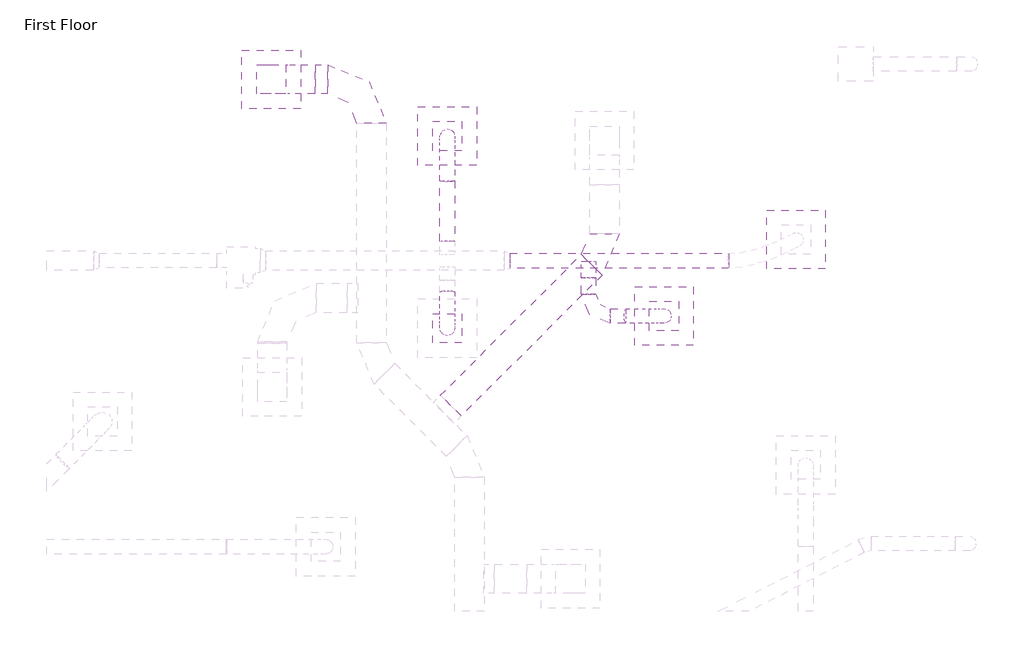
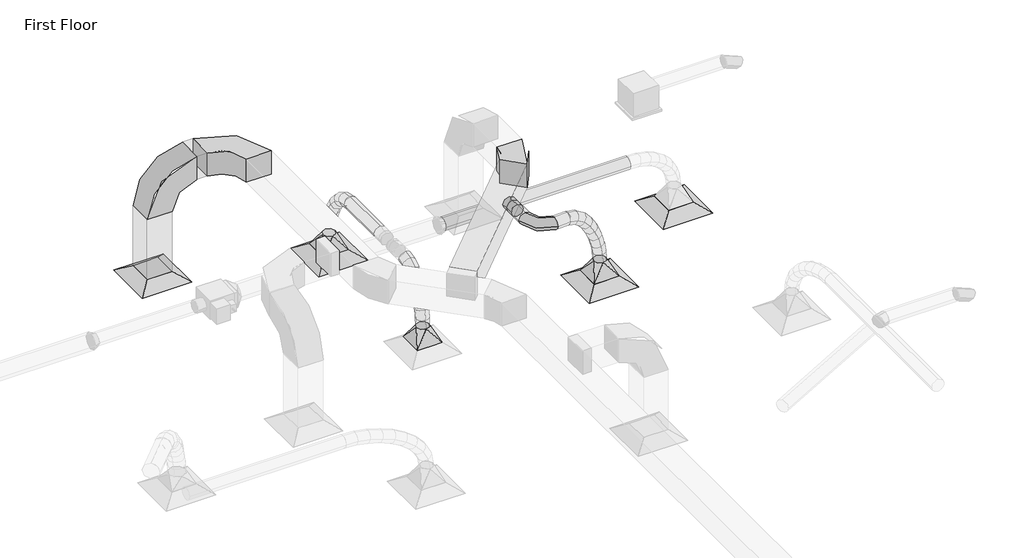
# One storey, part 32 of 61: 10 duct segments, 8 duct fittings, 4 air terminals.
"""IFC4 building model written with IfcOpenShell, lengths in millimetres."""

from ifc_helpers import new_model, si_unit, point, frame, frame_2d, origin, place, context, project, spatial, polyline, circle_curve, ellipse_curve, trimmed, segment, composite_curve, outline, extrude, transform, mapped, element, save
from ifc_brep_helpers import plane_surface, cylinder_surface, advanced_brep
from components import m_exhaust_grill_er_600_x_600_face_300_x_300_connection_ff221211, m_rectangular_elbow_radius_1_5_w_5bed5c13, m_rectangular_elbow_radius_1_5_w_86011e9f, m_rectangular_to_round_transition_angle_45_degree_8f201c83, m_round_elbow_1_5_d_2e586196, m_round_takeoff_standard_501f709b

model = new_model("IFC4")

# Units and contexts
model_context = context("Model", 3, world=origin())
ifc_project = project(units=[si_unit("LENGTHUNIT", "METRE", prefix="MILLI")], contexts=[model_context])

# Site, building, storey
site = spatial("IfcSite", under=ifc_project)
building = spatial("IfcBuilding", under=site)
storey = spatial("IfcBuildingStorey", under=building, Name="First Floor", Elevation=0.0)

# Air terminals
placement = place(None, origin())
m_exhaust_grill_er_600_x_600_face_300_x_300_connection_shape = m_exhaust_grill_er_600_x_600_face_300_x_300_connection_ff221211(model_context)
element("IfcAirTerminal", 1, ObjectType="M_Return Register : RR-600 x 600 Face 300 x 300 Connection", at=placement, inside=storey, context=model_context, shape_type="MappedRepresentation", body=[
    mapped(m_exhaust_grill_er_600_x_600_face_300_x_300_connection_shape, transform((-6532.1176508, 27555.9279557, 2680.0), x_axis=(1.0, 0.0, 0.0), y_axis=(0.0, 1.0, 0.0), z_axis=(0.0, 0.0, 1.0))),
])
element("IfcAirTerminal", 2, ObjectType="M_Supply Diffuser : SD-600 x 600 Face 300 x 300 Connection", at=placement, inside=storey, context=model_context, shape_type="MappedRepresentation", body=[
    mapped(m_exhaust_grill_er_600_x_600_face_300_x_300_connection_shape, transform((-1158.5597337, 25915.1292224, 2680.0), x_axis=(1.0, 0.0, 0.0), y_axis=(0.0, 1.0, 0.0), z_axis=(0.0, 0.0, 1.0))),
])
element("IfcAirTerminal", 3, ObjectType="M_Supply Diffuser : SD-600 x 600 Face 300 x 300 Connection", at=placement, inside=storey, context=model_context, shape_type="MappedRepresentation", body=[
    mapped(m_exhaust_grill_er_600_x_600_face_300_x_300_connection_shape, transform((-2510.3196662, 25131.9911597, 2680.0), x_axis=(1.0, 0.0, 0.0), y_axis=(0.0, 1.0, 0.0), z_axis=(0.0, 0.0, 1.0))),
])
element("IfcAirTerminal", 4, ObjectType="M_Supply Diffuser : SD-600 x 600 Face 300 x 300 Connection", at=placement, inside=storey, context=model_context, shape_type="MappedRepresentation", body=[
    mapped(m_exhaust_grill_er_600_x_600_face_300_x_300_connection_shape, transform((-4729.296973, 26974.3313895, 2680.0), x_axis=(1.0, 0.0, 0.0), y_axis=(0.0, 1.0, 0.0), z_axis=(0.0, 0.0, 1.0))),
])

# Duct fittings
m_rectangular_elbow_radius_1_5_w_shape = m_rectangular_elbow_radius_1_5_w_5bed5c13(model_context)
element("IfcDuctFitting", 5, ObjectType="M_Rectangular Elbow - Radius : 1.5 W", at=placement, inside=storey, context=model_context, shape_type="MappedRepresentation", body=[
    mapped(m_rectangular_elbow_radius_1_5_w_shape, transform((-3119.2454785, 25788.9568469, 4000.0), x_axis=(0.7071067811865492, 0.7071067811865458, 0.0), y_axis=(-0.7071067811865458, 0.7071067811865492, 0.0), z_axis=(0.0, 0.0, 1.0))),
])
m_rectangular_elbow_radius_1_5_w_2_shape = m_rectangular_elbow_radius_1_5_w_86011e9f(model_context)
element("IfcDuctFitting", 6, ObjectType="M_Rectangular Elbow - Radius : 1.5 W", at=placement, inside=storey, context=model_context, shape_type="MappedRepresentation", body=[
    mapped(m_rectangular_elbow_radius_1_5_w_2_shape, transform((-6532.1176508, 27555.9279557, 4000.0), x_axis=(0.0, 0.0, 1.0), y_axis=(1.0, 0.0, 0.0), z_axis=(0.0, 1.0, 0.0))),
])
element("IfcDuctFitting", 7, ObjectType="M_Rectangular Elbow - Radius : 1.5 W", at=placement, inside=storey, context=model_context, shape_type="MappedRepresentation", body=[
    mapped(m_rectangular_elbow_radius_1_5_w_2_shape, transform((-5504.0823103, 27555.9279557, 4000.0), x_axis=(0.0, 1.0, 0.0), y_axis=(-1.0, 0.0, 0.0), z_axis=(0.0, 0.0, 1.0))),
])
m_rectangular_to_round_transition_angle_45_degree_shape = m_rectangular_to_round_transition_angle_45_degree_8f201c83(model_context)
element("IfcDuctFitting", 8, ObjectType="M_Rectangular to Round Transition - Angle : 45 Degree", at=placement, inside=storey, context=model_context, shape_type="MappedRepresentation", body=[
    mapped(m_rectangular_to_round_transition_angle_45_degree_shape, transform((-4729.296973, 26974.3313895, 2781.6), x_axis=(0.0, 0.0, 1.0), y_axis=(1.0, 0.0, 0.0), z_axis=(0.0, 1.0, 0.0))),
])
element("IfcDuctFitting", 9, ObjectType="M_Rectangular to Round Transition - Angle : 45 Degree", at=placement, inside=storey, context=model_context, shape_type="MappedRepresentation", body=[
    mapped(m_rectangular_to_round_transition_angle_45_degree_shape, transform((-4729.296973, 25007.077628, 2781.6), x_axis=(0.0, 0.0, 1.0), y_axis=(1.0, 0.0, 0.0), z_axis=(0.0, 1.0, 0.0))),
])
element("IfcDuctFitting", 10, ObjectType="M_Rectangular to Round Transition - Angle : 45 Degree", at=placement, inside=storey, context=model_context, shape_type="MappedRepresentation", body=[
    mapped(m_rectangular_to_round_transition_angle_45_degree_shape, transform((-2510.3196662, 25131.9911597, 2781.6), x_axis=(0.0, 0.0, 1.0), y_axis=(1.0, 0.0, 0.0), z_axis=(0.0, 1.0, 0.0))),
])
m_round_elbow_1_5_d_shape = m_round_elbow_1_5_d_2e586196(model_context)
element("IfcDuctFitting", 11, ObjectType="M_Round Elbow : 1.5 D", at=placement, inside=storey, context=model_context, shape_type="MappedRepresentation", body=[
    mapped(m_round_elbow_1_5_d_shape, transform((-3284.1409075, 25131.9911597, 3619.1), x_axis=(0.0, -1.0, 0.0), y_axis=(1.0, 0.0, 0.0), z_axis=(0.0, 0.0, 1.0))),
])
m_round_takeoff_standard_shape = m_round_takeoff_standard_501f709b(model_context)
element("IfcDuctFitting", 12, ObjectType="M_Round Takeoff : Standard", at=placement, inside=storey, context=model_context, shape_type="MappedRepresentation", body=[
    mapped(m_round_takeoff_standard_shape, transform((-3284.1409075, 25624.0931749, 3619.1), x_axis=(0.0, -1.0, 0.0), y_axis=(-1.0, 0.0, 0.0), z_axis=(0.0, 0.0, -1.0))),
])

# Duct segments
element("IfcDuctSegment", 13, ObjectType="Flex - Round", at=placement, inside=storey, context=model_context, shape_type="AdvancedBrep", body=[
    advanced_brep(
    [(-4804.296973, 26519.0931749, 3619.1), (-4729.296973, 26504.0114322, 3545.6320407), (-4654.296973, 26519.0931749, 3619.1), (-4729.296973, 26534.1749175, 3692.5679593), (-4804.296973, 26628.1538527, 3596.7116678), (-4729.296973, 26599.8093834, 3525.9663244), (-4654.296973, 26628.1538527, 3596.7116678), (-4729.296973, 26656.498322, 3667.4570112), (-4804.296973, 26974.3313895, 2962.6660172), (-4729.296973, 27049.0054501, 2969.6506202), (-4654.296973, 26974.3313895, 2962.6660172), (-4729.296973, 26899.6573289, 2955.6814142), (-4804.296973, 26725.7936503, 3535.5411515), (-4729.296973, 26677.5397004, 3477.2689311), (-4654.296973, 26725.7936503, 3535.5411515), (-4729.296973, 26774.0476001, 3593.8133719), (-4804.296973, 26810.0597663, 3444.5801713), (-4729.296973, 26750.0684938, 3398.9777929), (-4654.296973, 26810.0597663, 3444.5801713), (-4729.296973, 26870.0510389, 3490.1825496), (-4804.296973, 26878.9993996, 3332.8204474), (-4729.296973, 26812.0750015, 3298.4575281), (-4654.296973, 26878.9993996, 3332.8204474), (-4729.296973, 26945.9237976, 3367.1833667), (-4804.296973, 26930.6597487, 3209.2537003), (-4729.296973, 26859.3652095, 3185.343752), (-4654.296973, 26930.6597487, 3209.2537003), (-4729.296973, 27001.9542879, 3233.1636486), (-4804.296973, 26963.0880124, 3082.8716501), (-4729.296973, 26888.9665607, 3069.9789737), (-4654.296973, 26963.0880124, 3082.8716501), (-4729.296973, 27037.2094641, 3095.7643265)],
    [
        (0, 1, circle_curve(frame((-4729.296973, 26519.0931749, 3619.1), z_axis=(0.0, -0.9795727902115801, 0.20108990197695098), x_axis=(-1.0, 0.0, 0.0)), 75.0)),
        (1, 2, circle_curve(frame((-4729.296973, 26519.0931749, 3619.1), z_axis=(0.0, -0.9795727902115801, 0.20108990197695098), x_axis=(-1.0, 0.0, 0.0)), 75.0)),
        (2, 3, circle_curve(frame((-4729.296973, 26519.0931749, 3619.1), z_axis=(0.0, -0.9795727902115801, 0.20108990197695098), x_axis=(-1.0, 0.0, 0.0)), 75.0)),
        (3, 0, circle_curve(frame((-4729.296973, 26519.0931749, 3619.1), z_axis=(0.0, -0.9795727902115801, 0.20108990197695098), x_axis=(-1.0, 0.0, 0.0)), 75.0)),
        (0, 4),
        (4, 5, ellipse_curve(frame((-4729.296973, 26628.1538527, 3596.7116678), z_axis=(0.0, -0.9282669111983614, 0.3719146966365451), x_axis=(0.0, -0.37191469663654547, -0.9282669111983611)), 76.2122861, 75.0)),
        (5, 1),
        (5, 6, ellipse_curve(frame((-4729.296973, 26628.1538527, 3596.7116678), z_axis=(0.0, -0.9282669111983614, 0.3719146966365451), x_axis=(0.0, -0.37191469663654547, -0.9282669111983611)), 76.2122861, 75.0)),
        (6, 2),
        (6, 7, ellipse_curve(frame((-4729.296973, 26628.1538527, 3596.7116678), z_axis=(0.0, -0.9282669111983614, 0.3719146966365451), x_axis=(0.0, -0.37191469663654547, -0.9282669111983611)), 76.2122861, 75.0)),
        (7, 3),
        (7, 4, ellipse_curve(frame((-4729.296973, 26628.1538527, 3596.7116678), z_axis=(0.0, -0.9282669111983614, 0.3719146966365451), x_axis=(0.0, -0.37191469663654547, -0.9282669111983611)), 76.2122861, 75.0)),
        (8, 9, circle_curve(frame((-4729.296973, 26974.3313895, 2962.6660172), z_axis=(0.0, 0.0931280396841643, -0.9956541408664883), x_axis=(-1.0, 0.0, 0.0)), 75.0)),
        (9, 10, circle_curve(frame((-4729.296973, 26974.3313895, 2962.6660172), z_axis=(0.0, 0.0931280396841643, -0.9956541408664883), x_axis=(-1.0, 0.0, 0.0)), 75.0)),
        (10, 11, circle_curve(frame((-4729.296973, 26974.3313895, 2962.6660172), z_axis=(0.0, 0.0931280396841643, -0.9956541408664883), x_axis=(-1.0, 0.0, 0.0)), 75.0)),
        (11, 8, circle_curve(frame((-4729.296973, 26974.3313895, 2962.6660172), z_axis=(0.0, 0.0931280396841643, -0.9956541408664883), x_axis=(-1.0, 0.0, 0.0)), 75.0)),
        (4, 12),
        (12, 13, ellipse_curve(frame((-4729.296973, 26725.7936503, 3535.5411515), z_axis=(0.0, -0.770208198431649, 0.6377925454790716), x_axis=(0.0, -0.6377925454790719, -0.7702081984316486)), 75.6577514, 75.0)),
        (13, 5),
        (13, 14, ellipse_curve(frame((-4729.296973, 26725.7936503, 3535.5411515), z_axis=(0.0, -0.770208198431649, 0.6377925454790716), x_axis=(0.0, -0.6377925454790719, -0.7702081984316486)), 75.6577514, 75.0)),
        (14, 6),
        (14, 15, ellipse_curve(frame((-4729.296973, 26725.7936503, 3535.5411515), z_axis=(0.0, -0.770208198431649, 0.6377925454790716), x_axis=(0.0, -0.6377925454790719, -0.7702081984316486)), 75.6577514, 75.0)),
        (15, 7),
        (15, 12, ellipse_curve(frame((-4729.296973, 26725.7936503, 3535.5411515), z_axis=(0.0, -0.770208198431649, 0.6377925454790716), x_axis=(0.0, -0.6377925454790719, -0.7702081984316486)), 75.6577514, 75.0)),
        (12, 16),
        (16, 17, ellipse_curve(frame((-4729.296973, 26810.0597663, 3444.5801713), z_axis=(0.0, -0.6051590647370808, 0.7961045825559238), x_axis=(0.0, -0.796104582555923, -0.6051590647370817)), 75.3560196, 75.0)),
        (17, 13),
        (17, 18, ellipse_curve(frame((-4729.296973, 26810.0597663, 3444.5801713), z_axis=(0.0, -0.6051590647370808, 0.7961045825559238), x_axis=(0.0, -0.796104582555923, -0.6051590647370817)), 75.3560196, 75.0)),
        (18, 14),
        (18, 19, ellipse_curve(frame((-4729.296973, 26810.0597663, 3444.5801713), z_axis=(0.0, -0.6051590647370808, 0.7961045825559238), x_axis=(0.0, -0.796104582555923, -0.6051590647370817)), 75.3560196, 75.0)),
        (19, 15),
        (19, 16, ellipse_curve(frame((-4729.296973, 26810.0597663, 3444.5801713), z_axis=(0.0, -0.6051590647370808, 0.7961045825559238), x_axis=(0.0, -0.796104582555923, -0.6051590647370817)), 75.3560196, 75.0)),
        (16, 20),
        (20, 21, ellipse_curve(frame((-4729.296973, 26878.9993996, 3332.8204474), z_axis=(0.0, -0.4567661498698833, 0.8895868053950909), x_axis=(0.0, -0.8895868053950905, -0.45676614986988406)), 75.2308798, 75.0)),
        (21, 17),
        (21, 22, ellipse_curve(frame((-4729.296973, 26878.9993996, 3332.8204474), z_axis=(0.0, -0.4567661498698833, 0.8895868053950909), x_axis=(0.0, -0.8895868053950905, -0.45676614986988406)), 75.2308798, 75.0)),
        (22, 18),
        (22, 23, ellipse_curve(frame((-4729.296973, 26878.9993996, 3332.8204474), z_axis=(0.0, -0.4567661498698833, 0.8895868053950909), x_axis=(0.0, -0.8895868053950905, -0.45676614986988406)), 75.2308798, 75.0)),
        (23, 19),
        (23, 20, ellipse_curve(frame((-4729.296973, 26878.9993996, 3332.8204474), z_axis=(0.0, -0.4567661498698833, 0.8895868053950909), x_axis=(0.0, -0.8895868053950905, -0.45676614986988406)), 75.2308798, 75.0)),
        (20, 24),
        (24, 25, ellipse_curve(frame((-4729.296973, 26930.6597487, 3209.2537003), z_axis=(0.0, -0.31796389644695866, 0.9481028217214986), x_axis=(0.0, -0.9481028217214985, -0.3179638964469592)), 75.1970541, 75.0)),
        (25, 21),
        (25, 26, ellipse_curve(frame((-4729.296973, 26930.6597487, 3209.2537003), z_axis=(0.0, -0.31796389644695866, 0.9481028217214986), x_axis=(0.0, -0.9481028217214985, -0.3179638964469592)), 75.1970541, 75.0)),
        (26, 22),
        (26, 27, ellipse_curve(frame((-4729.296973, 26930.6597487, 3209.2537003), z_axis=(0.0, -0.31796389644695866, 0.9481028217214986), x_axis=(0.0, -0.9481028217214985, -0.3179638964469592)), 75.1970541, 75.0)),
        (27, 23),
        (27, 24, ellipse_curve(frame((-4729.296973, 26930.6597487, 3209.2537003), z_axis=(0.0, -0.31796389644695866, 0.9481028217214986), x_axis=(0.0, -0.9481028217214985, -0.3179638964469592)), 75.1970541, 75.0)),
        (24, 28),
        (28, 29, ellipse_curve(frame((-4729.296973, 26963.0880124, 3082.8716501), z_axis=(0.0, -0.17136683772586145, 0.9852072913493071), x_axis=(0.0, -0.9852072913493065, -0.1713668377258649)), 75.2343719, 75.0)),
        (29, 25),
        (29, 30, ellipse_curve(frame((-4729.296973, 26963.0880124, 3082.8716501), z_axis=(0.0, -0.17136683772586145, 0.9852072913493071), x_axis=(0.0, -0.9852072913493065, -0.1713668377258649)), 75.2343719, 75.0)),
        (30, 26),
        (30, 31, ellipse_curve(frame((-4729.296973, 26963.0880124, 3082.8716501), z_axis=(0.0, -0.17136683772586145, 0.9852072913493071), x_axis=(0.0, -0.9852072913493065, -0.1713668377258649)), 75.2343719, 75.0)),
        (31, 27),
        (31, 28, ellipse_curve(frame((-4729.296973, 26963.0880124, 3082.8716501), z_axis=(0.0, -0.17136683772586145, 0.9852072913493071), x_axis=(0.0, -0.9852072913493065, -0.1713668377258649)), 75.2343719, 75.0)),
        (28, 8),
        (11, 29),
        (10, 30),
        (9, 31),
    ],
    [
        plane_surface(frame((-4729.296973, 26534.1749175, 3692.5679593), z_axis=(0.0, -0.9795727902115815, 0.20108990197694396), x_axis=(1.0, 0.0, 0.0))),
        cylinder_surface(frame((-4729.296973, 26519.0931749, 3619.1), z_axis=(0.0, -0.9795727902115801, 0.20108990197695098), x_axis=(-1.0, 0.0, 0.0)), 75.0),
        plane_surface(frame((-4729.296973, 27049.0054501, 2969.6506202), z_axis=(0.0, 0.09312803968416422, -0.9956541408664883), x_axis=(1.0, 0.0, 0.0))),
        cylinder_surface(frame((-4729.296973, 26628.1538527, 3596.7116678), z_axis=(0.0, -0.8474297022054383, 0.5309076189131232), x_axis=(-1.0, 0.0, 0.0)), 75.0),
        cylinder_surface(frame((-4729.296973, 26725.7936503, 3535.5411515), z_axis=(0.0, -0.679594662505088, 0.7335878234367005), x_axis=(-1.0, 0.0, 0.0)), 75.0),
        cylinder_surface(frame((-4729.296973, 26810.0597663, 3444.5801713), z_axis=(0.0, -0.5250053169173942, 0.8510989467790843), x_axis=(-1.0, 0.0, 0.0)), 75.0),
        cylinder_surface(frame((-4729.296973, 26878.9993996, 3332.8204474), z_axis=(0.0, -0.3857233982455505, 0.9226144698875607), x_axis=(-1.0, 0.0, 0.0)), 75.0),
        cylinder_surface(frame((-4729.296973, 26930.6597487, 3209.2537003), z_axis=(0.0, -0.2485379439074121, 0.9686221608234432), x_axis=(-1.0, 0.0, 0.0)), 75.0),
        cylinder_surface(frame((-4729.296973, 26963.0880124, 3082.8716501), z_axis=(0.0, -0.0931280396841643, 0.9956541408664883), x_axis=(-1.0, 0.0, 0.0)), 75.0),
    ],
    [
        (0, [[1, 2, 3, 4]]),
        (1, [[-1, 5, 6, 7]]),
        (1, [[-2, -7, 8, 9]]),
        (1, [[-3, -9, 10, 11]]),
        (1, [[-4, -11, 12, -5]]),
        (2, [[13, 14, 15, 16]]),
        (3, [[-6, 17, 18, 19]]),
        (3, [[-8, -19, 20, 21]]),
        (3, [[-10, -21, 22, 23]]),
        (3, [[-12, -23, 24, -17]]),
        (4, [[-18, 25, 26, 27]]),
        (4, [[-20, -27, 28, 29]]),
        (4, [[-22, -29, 30, 31]]),
        (4, [[-24, -31, 32, -25]]),
        (5, [[-26, 33, 34, 35]]),
        (5, [[-28, -35, 36, 37]]),
        (5, [[-30, -37, 38, 39]]),
        (5, [[-32, -39, 40, -33]]),
        (6, [[-34, 41, 42, 43]]),
        (6, [[-36, -43, 44, 45]]),
        (6, [[-38, -45, 46, 47]]),
        (6, [[-40, -47, 48, -41]]),
        (7, [[-42, 49, 50, 51]]),
        (7, [[-44, -51, 52, 53]]),
        (7, [[-46, -53, 54, 55]]),
        (7, [[-48, -55, 56, -49]]),
        (8, [[-50, 57, -16, 58]]),
        (8, [[-52, -58, -15, 59]]),
        (8, [[-54, -59, -14, 60]]),
        (8, [[-56, -60, -13, -57]]),
    ],
),
])
element("IfcDuctSegment", 14, ObjectType="Flex - Round", at=placement, inside=storey, context=model_context, shape_type="AdvancedBrep", body=[
    advanced_brep(
    [(-4654.296973, 25379.0931749, 3619.1), (-4729.296973, 25394.0033206, 3545.5970235), (-4804.296973, 25379.0931749, 3619.1), (-4729.296973, 25364.1830291, 3692.6029765), (-4654.296973, 25290.8981649, 3601.2095619), (-4729.296973, 25319.7607214, 3530.5368446), (-4804.296973, 25290.8981649, 3601.2095619), (-4729.296973, 25262.0356084, 3671.8822791), (-4654.296973, 25007.077628, 2962.6660172), (-4729.296973, 24932.1968762, 2966.8936648), (-4804.296973, 25007.077628, 2962.6660172), (-4729.296973, 25081.9583798, 2958.4383695), (-4654.296973, 25214.8613045, 3551.9003373), (-4729.296973, 25264.6533397, 3494.8001999), (-4804.296973, 25214.8613045, 3551.9003373), (-4729.296973, 25165.0692693, 3609.0004746), (-4654.296973, 25150.8596711, 3477.7154609), (-4729.296973, 25212.5389826, 3434.3939738), (-4804.296973, 25150.8596711, 3477.7154609), (-4729.296973, 25089.1803597, 3521.036948), (-4654.296973, 25098.7703426, 3385.1980674), (-4729.296973, 25166.7795153, 3353.1192338), (-4804.296973, 25098.7703426, 3385.1980674), (-4729.296973, 25030.7611698, 3417.2769011), (-4654.296973, 25058.4703964, 3280.8912917), (-4729.296973, 25129.9597625, 3257.8201064), (-4804.296973, 25058.4703964, 3280.8912917), (-4729.296973, 24986.9810302, 3303.9624769), (-4654.296973, 25029.8369101, 3171.3382682), (-4729.296973, 25103.339648, 3155.970335), (-4804.296973, 25029.8369101, 3171.3382682), (-4729.296973, 24956.3341723, 3186.7062014), (-4654.296973, 25012.7469615, 3063.0821318), (-4729.296973, 25087.4157834, 3055.1007482), (-4804.296973, 25012.7469615, 3063.0821318), (-4729.296973, 24938.0781396, 3071.0635154)],
    [
        (0, 1, circle_curve(frame((-4729.296973, 25379.0931749, 3619.1), z_axis=(0.0, 0.9800396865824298, 0.19880194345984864), x_axis=(1.0, 0.0, 0.0)), 75.0)),
        (1, 2, circle_curve(frame((-4729.296973, 25379.0931749, 3619.1), z_axis=(0.0, 0.9800396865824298, 0.19880194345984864), x_axis=(1.0, 0.0, 0.0)), 75.0)),
        (2, 3, circle_curve(frame((-4729.296973, 25379.0931749, 3619.1), z_axis=(0.0, 0.9800396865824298, 0.19880194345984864), x_axis=(1.0, 0.0, 0.0)), 75.0)),
        (3, 0, circle_curve(frame((-4729.296973, 25379.0931749, 3619.1), z_axis=(0.0, 0.9800396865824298, 0.19880194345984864), x_axis=(1.0, 0.0, 0.0)), 75.0)),
        (0, 4),
        (4, 5, ellipse_curve(frame((-4729.296973, 25290.8981649, 3601.2095619), z_axis=(0.0, 0.9257717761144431, 0.3780828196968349), x_axis=(0.0, 0.37808281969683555, -0.925771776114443)), 76.3392437, 75.0)),
        (5, 1),
        (5, 6, ellipse_curve(frame((-4729.296973, 25290.8981649, 3601.2095619), z_axis=(0.0, 0.9257717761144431, 0.3780828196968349), x_axis=(0.0, 0.37808281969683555, -0.925771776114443)), 76.3392437, 75.0)),
        (6, 2),
        (6, 7, ellipse_curve(frame((-4729.296973, 25290.8981649, 3601.2095619), z_axis=(0.0, 0.9257717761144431, 0.3780828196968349), x_axis=(0.0, 0.37808281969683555, -0.925771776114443)), 76.3392437, 75.0)),
        (7, 3),
        (7, 4, ellipse_curve(frame((-4729.296973, 25290.8981649, 3601.2095619), z_axis=(0.0, 0.9257717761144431, 0.3780828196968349), x_axis=(0.0, 0.37808281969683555, -0.925771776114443)), 76.3392437, 75.0)),
        (8, 9, circle_curve(frame((-4729.296973, 25007.077628, 2962.6660172), z_axis=(0.0, -0.05636863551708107, -0.9984100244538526), x_axis=(1.0, 0.0, 0.0)), 75.0)),
        (9, 10, circle_curve(frame((-4729.296973, 25007.077628, 2962.6660172), z_axis=(0.0, -0.05636863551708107, -0.9984100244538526), x_axis=(1.0, 0.0, 0.0)), 75.0)),
        (10, 11, circle_curve(frame((-4729.296973, 25007.077628, 2962.6660172), z_axis=(0.0, -0.05636863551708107, -0.9984100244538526), x_axis=(1.0, 0.0, 0.0)), 75.0)),
        (11, 8, circle_curve(frame((-4729.296973, 25007.077628, 2962.6660172), z_axis=(0.0, -0.05636863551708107, -0.9984100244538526), x_axis=(1.0, 0.0, 0.0)), 75.0)),
        (4, 12),
        (12, 13, ellipse_curve(frame((-4729.296973, 25214.8613045, 3551.9003373), z_axis=(0.0, 0.7536914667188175, 0.6572284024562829), x_axis=(0.0, 0.6572284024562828, -0.7536914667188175)), 75.760626, 75.0)),
        (13, 5),
        (13, 14, ellipse_curve(frame((-4729.296973, 25214.8613045, 3551.9003373), z_axis=(0.0, 0.7536914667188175, 0.6572284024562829), x_axis=(0.0, 0.6572284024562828, -0.7536914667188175)), 75.760626, 75.0)),
        (14, 6),
        (14, 15, ellipse_curve(frame((-4729.296973, 25214.8613045, 3551.9003373), z_axis=(0.0, 0.7536914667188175, 0.6572284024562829), x_axis=(0.0, 0.6572284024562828, -0.7536914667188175)), 75.760626, 75.0)),
        (15, 7),
        (15, 12, ellipse_curve(frame((-4729.296973, 25214.8613045, 3551.9003373), z_axis=(0.0, 0.7536914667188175, 0.6572284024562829), x_axis=(0.0, 0.6572284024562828, -0.7536914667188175)), 75.760626, 75.0)),
        (12, 16),
        (16, 17, ellipse_curve(frame((-4729.296973, 25150.8596711, 3477.7154609), z_axis=(0.0, 0.574761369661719, 0.8183210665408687), x_axis=(0.0, 0.8183210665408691, -0.5747613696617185)), 75.3729972, 75.0)),
        (17, 13),
        (17, 18, ellipse_curve(frame((-4729.296973, 25150.8596711, 3477.7154609), z_axis=(0.0, 0.574761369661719, 0.8183210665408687), x_axis=(0.0, 0.8183210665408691, -0.5747613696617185)), 75.3729972, 75.0)),
        (18, 14),
        (18, 19, ellipse_curve(frame((-4729.296973, 25150.8596711, 3477.7154609), z_axis=(0.0, 0.574761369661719, 0.8183210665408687), x_axis=(0.0, 0.8183210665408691, -0.5747613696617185)), 75.3729972, 75.0)),
        (19, 15),
        (19, 16, ellipse_curve(frame((-4729.296973, 25150.8596711, 3477.7154609), z_axis=(0.0, 0.574761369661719, 0.8183210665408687), x_axis=(0.0, 0.8183210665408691, -0.5747613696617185)), 75.3729972, 75.0)),
        (16, 20),
        (20, 21, ellipse_curve(frame((-4729.296973, 25098.7703426, 3385.1980674), z_axis=(0.0, 0.4266081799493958, 0.9044365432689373), x_axis=(0.0, 0.9044365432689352, -0.4266081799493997)), 75.195074, 75.0)),
        (21, 17),
        (21, 22, ellipse_curve(frame((-4729.296973, 25098.7703426, 3385.1980674), z_axis=(0.0, 0.4266081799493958, 0.9044365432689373), x_axis=(0.0, 0.9044365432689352, -0.4266081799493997)), 75.195074, 75.0)),
        (22, 18),
        (22, 23, ellipse_curve(frame((-4729.296973, 25098.7703426, 3385.1980674), z_axis=(0.0, 0.4266081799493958, 0.9044365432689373), x_axis=(0.0, 0.9044365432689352, -0.4266081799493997)), 75.195074, 75.0)),
        (23, 19),
        (23, 20, ellipse_curve(frame((-4729.296973, 25098.7703426, 3385.1980674), z_axis=(0.0, 0.4266081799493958, 0.9044365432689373), x_axis=(0.0, 0.9044365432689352, -0.4266081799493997)), 75.195074, 75.0)),
        (20, 24),
        (24, 25, ellipse_curve(frame((-4729.296973, 25058.4703964, 3280.8912917), z_axis=(0.0, 0.30712454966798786, 0.9516693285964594), x_axis=(0.0, 0.9516693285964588, -0.30712454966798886)), 75.1199644, 75.0)),
        (25, 21),
        (25, 26, ellipse_curve(frame((-4729.296973, 25058.4703964, 3280.8912917), z_axis=(0.0, 0.30712454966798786, 0.9516693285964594), x_axis=(0.0, 0.9516693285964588, -0.30712454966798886)), 75.1199644, 75.0)),
        (26, 22),
        (26, 27, ellipse_curve(frame((-4729.296973, 25058.4703964, 3280.8912917), z_axis=(0.0, 0.30712454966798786, 0.9516693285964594), x_axis=(0.0, 0.9516693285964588, -0.30712454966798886)), 75.1199644, 75.0)),
        (27, 23),
        (27, 24, ellipse_curve(frame((-4729.296973, 25058.4703964, 3280.8912917), z_axis=(0.0, 0.30712454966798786, 0.9516693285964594), x_axis=(0.0, 0.9516693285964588, -0.30712454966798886)), 75.1199644, 75.0)),
        (24, 28),
        (28, 29, ellipse_curve(frame((-4729.296973, 25029.8369101, 3171.3382682), z_axis=(0.0, 0.20465441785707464, 0.9788342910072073), x_axis=(0.0, 0.9788342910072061, -0.20465441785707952)), 75.0921157, 75.0)),
        (29, 25),
        (29, 30, ellipse_curve(frame((-4729.296973, 25029.8369101, 3171.3382682), z_axis=(0.0, 0.20465441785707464, 0.9788342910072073), x_axis=(0.0, 0.9788342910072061, -0.20465441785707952)), 75.0921157, 75.0)),
        (30, 26),
        (30, 31, ellipse_curve(frame((-4729.296973, 25029.8369101, 3171.3382682), z_axis=(0.0, 0.20465441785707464, 0.9788342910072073), x_axis=(0.0, 0.9788342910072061, -0.20465441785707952)), 75.0921157, 75.0)),
        (31, 27),
        (31, 28, ellipse_curve(frame((-4729.296973, 25029.8369101, 3171.3382682), z_axis=(0.0, 0.20465441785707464, 0.9788342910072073), x_axis=(0.0, 0.9788342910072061, -0.20465441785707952)), 75.0921157, 75.0)),
        (28, 32),
        (32, 33, ellipse_curve(frame((-4729.296973, 25012.7469615, 3063.0821318), z_axis=(0.0, 0.10628498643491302, 0.9943357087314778), x_axis=(0.0, 0.994335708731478, -0.10628498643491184)), 75.0941772, 75.0)),
        (33, 29),
        (33, 34, ellipse_curve(frame((-4729.296973, 25012.7469615, 3063.0821318), z_axis=(0.0, 0.10628498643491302, 0.9943357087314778), x_axis=(0.0, 0.994335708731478, -0.10628498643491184)), 75.0941772, 75.0)),
        (34, 30),
        (34, 35, ellipse_curve(frame((-4729.296973, 25012.7469615, 3063.0821318), z_axis=(0.0, 0.10628498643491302, 0.9943357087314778), x_axis=(0.0, 0.994335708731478, -0.10628498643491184)), 75.0941772, 75.0)),
        (35, 31),
        (35, 32, ellipse_curve(frame((-4729.296973, 25012.7469615, 3063.0821318), z_axis=(0.0, 0.10628498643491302, 0.9943357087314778), x_axis=(0.0, 0.994335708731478, -0.10628498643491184)), 75.0941772, 75.0)),
        (32, 8),
        (11, 33),
        (10, 34),
        (9, 35),
    ],
    [
        plane_surface(frame((-4729.296973, 25394.0033206, 3545.5970235), z_axis=(0.0, 0.9800396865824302, 0.19880194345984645), x_axis=(1.0, 0.0, 0.0))),
        cylinder_surface(frame((-4729.296973, 25379.0931749, 3619.1), z_axis=(0.0, 0.9800396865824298, 0.19880194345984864), x_axis=(1.0, 0.0, 0.0)), 75.0),
        plane_surface(frame((-4729.296973, 25081.9583798, 2958.4383695), z_axis=(0.0, -0.05636863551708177, -0.9984100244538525), x_axis=(1.0, 0.0, 0.0))),
        cylinder_surface(frame((-4729.296973, 25290.8981649, 3601.2095619), z_axis=(0.0, 0.8390216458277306, 0.5440980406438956), x_axis=(1.0, 0.0, 0.0)), 75.0),
        cylinder_surface(frame((-4729.296973, 25214.8613045, 3551.9003373), z_axis=(0.0, 0.6532273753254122, 0.7571618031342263), x_axis=(1.0, 0.0, 0.0)), 75.0),
        cylinder_surface(frame((-4729.296973, 25150.8596711, 3477.7154609), z_axis=(0.0, 0.4906067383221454, 0.8713811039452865), x_axis=(1.0, 0.0, 0.0)), 75.0),
        cylinder_surface(frame((-4729.296973, 25098.7703426, 3385.1980674), z_axis=(0.0, 0.3603961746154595, 0.9327993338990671), x_axis=(1.0, 0.0, 0.0)), 75.0),
        cylinder_surface(frame((-4729.296973, 25058.4703964, 3280.8912917), z_axis=(0.0, 0.25287198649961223, 0.9674997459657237), x_axis=(1.0, 0.0, 0.0)), 75.0),
        cylinder_surface(frame((-4729.296973, 25029.8369101, 3171.3382682), z_axis=(0.0, 0.15593474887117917, 0.9877673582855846), x_axis=(1.0, 0.0, 0.0)), 75.0),
        cylinder_surface(frame((-4729.296973, 25012.7469615, 3063.0821318), z_axis=(0.0, 0.05636863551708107, 0.9984100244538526), x_axis=(1.0, 0.0, 0.0)), 75.0),
    ],
    [
        (0, [[1, 2, 3, 4]]),
        (1, [[-1, 5, 6, 7]]),
        (1, [[-2, -7, 8, 9]]),
        (1, [[-3, -9, 10, 11]]),
        (1, [[-4, -11, 12, -5]]),
        (2, [[13, 14, 15, 16]]),
        (3, [[-6, 17, 18, 19]]),
        (3, [[-8, -19, 20, 21]]),
        (3, [[-10, -21, 22, 23]]),
        (3, [[-12, -23, 24, -17]]),
        (4, [[-18, 25, 26, 27]]),
        (4, [[-20, -27, 28, 29]]),
        (4, [[-22, -29, 30, 31]]),
        (4, [[-24, -31, 32, -25]]),
        (5, [[-26, 33, 34, 35]]),
        (5, [[-28, -35, 36, 37]]),
        (5, [[-30, -37, 38, 39]]),
        (5, [[-32, -39, 40, -33]]),
        (6, [[-34, 41, 42, 43]]),
        (6, [[-36, -43, 44, 45]]),
        (6, [[-38, -45, 46, 47]]),
        (6, [[-40, -47, 48, -41]]),
        (7, [[-42, 49, 50, 51]]),
        (7, [[-44, -51, 52, 53]]),
        (7, [[-46, -53, 54, 55]]),
        (7, [[-48, -55, 56, -49]]),
        (8, [[-50, 57, 58, 59]]),
        (8, [[-52, -59, 60, 61]]),
        (8, [[-54, -61, 62, 63]]),
        (8, [[-56, -63, 64, -57]]),
        (9, [[-58, 65, -16, 66]]),
        (9, [[-60, -66, -15, 67]]),
        (9, [[-62, -67, -14, 68]]),
        (9, [[-64, -68, -13, -65]]),
    ],
),
])
element("IfcDuctSegment", 15, ObjectType="Flex - Round", at=placement, inside=storey, context=model_context, shape_type="AdvancedBrep", body=[
    advanced_brep(
    [(-2904.1409075, 25206.9911597, 3619.1), (-2918.6169469, 25131.9911597, 3545.5102977), (-2904.1409075, 25056.9911597, 3619.1), (-2889.6648682, 25131.9911597, 3692.6897023), (-2813.9575029, 25206.9911597, 3601.3597663), (-2841.8411429, 25131.9911597, 3530.4075112), (-2813.9575029, 25056.9911597, 3601.3597663), (-2786.0738629, 25131.9911597, 3672.3120214), (-2510.3196662, 25206.9911597, 2962.6660172), (-2435.4710224, 25131.9911597, 2967.4284243), (-2510.3196662, 25056.9911597, 2962.6660172), (-2585.16831, 25131.9911597, 2957.9036101), (-2734.9569372, 25206.9911597, 3552.415324), (-2783.2594907, 25131.9911597, 3494.1135142), (-2734.9569372, 25056.9911597, 3552.415324), (-2686.6543837, 25131.9911597, 3610.7171338), (-2667.3986123, 25206.9911597, 3478.681061), (-2727.6933481, 25131.9911597, 3433.4677155), (-2667.3986123, 25056.9911597, 3478.681061), (-2607.1038764, 25131.9911597, 3523.8944065), (-2611.5419301, 25206.9911597, 3386.5713654), (-2678.5152205, 25131.9911597, 3352.3711987), (-2611.5419301, 25056.9911597, 3386.5713654), (-2544.5686396, 25131.9911597, 3420.771532), (-2567.6462925, 25206.9911597, 3282.5006252), (-2638.4702418, 25131.9911597, 3257.4298606), (-2567.6462925, 25056.9911597, 3282.5006252), (-2496.8223431, 25131.9911597, 3307.5713897), (-2535.9711013, 25206.9911597, 3172.8832284), (-2609.1339337, 25131.9911597, 3155.906567), (-2535.9711013, 25056.9911597, 3172.8832284), (-2462.808269, 25131.9911597, 3189.8598897), (-2516.7757586, 25206.9911597, 3064.133563), (-2591.3594149, 25131.9911597, 3055.2064652), (-2516.7757586, 25056.9911597, 3064.133563), (-2442.1921023, 25131.9911597, 3073.0606609)],
    [
        (0, 1, circle_curve(frame((-2904.1409075, 25131.9911597, 3619.1), z_axis=(-0.9811960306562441, 0.0, 0.19301385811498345), x_axis=(0.0, 1.0, 0.0)), 75.0)),
        (1, 2, circle_curve(frame((-2904.1409075, 25131.9911597, 3619.1), z_axis=(-0.9811960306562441, 0.0, 0.19301385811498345), x_axis=(0.0, 1.0, 0.0)), 75.0)),
        (2, 3, circle_curve(frame((-2904.1409075, 25131.9911597, 3619.1), z_axis=(-0.9811960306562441, 0.0, 0.19301385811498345), x_axis=(0.0, 1.0, 0.0)), 75.0)),
        (3, 0, circle_curve(frame((-2904.1409075, 25131.9911597, 3619.1), z_axis=(-0.9811960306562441, 0.0, 0.19301385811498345), x_axis=(0.0, 1.0, 0.0)), 75.0)),
        (0, 4),
        (4, 5, ellipse_curve(frame((-2813.9575029, 25131.9911597, 3601.3597663), z_axis=(-0.9307088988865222, 0.0, 0.36576077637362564), x_axis=(-0.3657607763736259, 0.0, -0.930708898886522)), 76.234637, 75.0)),
        (5, 1),
        (5, 6, ellipse_curve(frame((-2813.9575029, 25131.9911597, 3601.3597663), z_axis=(-0.9307088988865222, 0.0, 0.36576077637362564), x_axis=(-0.3657607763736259, 0.0, -0.930708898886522)), 76.234637, 75.0)),
        (6, 2),
        (6, 7, ellipse_curve(frame((-2813.9575029, 25131.9911597, 3601.3597663), z_axis=(-0.9307088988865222, 0.0, 0.36576077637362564), x_axis=(-0.3657607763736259, 0.0, -0.930708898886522)), 76.234637, 75.0)),
        (7, 3),
        (7, 4, ellipse_curve(frame((-2813.9575029, 25131.9911597, 3601.3597663), z_axis=(-0.9307088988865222, 0.0, 0.36576077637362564), x_axis=(-0.3657607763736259, 0.0, -0.930708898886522)), 76.234637, 75.0)),
        (8, 9, circle_curve(frame((-2510.3196662, 25131.9911597, 2962.6660172), z_axis=(0.06349876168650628, 0.0, -0.9979819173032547), x_axis=(0.0, 1.0, 0.0)), 75.0)),
        (9, 10, circle_curve(frame((-2510.3196662, 25131.9911597, 2962.6660172), z_axis=(0.06349876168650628, 0.0, -0.9979819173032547), x_axis=(0.0, 1.0, 0.0)), 75.0)),
        (10, 11, circle_curve(frame((-2510.3196662, 25131.9911597, 2962.6660172), z_axis=(0.06349876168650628, 0.0, -0.9979819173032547), x_axis=(0.0, 1.0, 0.0)), 75.0)),
        (11, 8, circle_curve(frame((-2510.3196662, 25131.9911597, 2962.6660172), z_axis=(0.06349876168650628, 0.0, -0.9979819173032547), x_axis=(0.0, 1.0, 0.0)), 75.0)),
        (4, 12),
        (12, 13, ellipse_curve(frame((-2734.9569372, 25131.9911597, 3552.415324), z_axis=(-0.7700518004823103, 0.0, 0.6379813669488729), x_axis=(-0.6379813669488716, 0.0, -0.7700518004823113)), 75.7115427, 75.0)),
        (13, 5),
        (13, 14, ellipse_curve(frame((-2734.9569372, 25131.9911597, 3552.415324), z_axis=(-0.7700518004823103, 0.0, 0.6379813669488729), x_axis=(-0.6379813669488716, 0.0, -0.7700518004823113)), 75.7115427, 75.0)),
        (14, 6),
        (14, 15, ellipse_curve(frame((-2734.9569372, 25131.9911597, 3552.415324), z_axis=(-0.7700518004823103, 0.0, 0.6379813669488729), x_axis=(-0.6379813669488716, 0.0, -0.7700518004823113)), 75.7115427, 75.0)),
        (15, 7),
        (15, 12, ellipse_curve(frame((-2734.9569372, 25131.9911597, 3552.415324), z_axis=(-0.7700518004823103, 0.0, 0.6379813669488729), x_axis=(-0.6379813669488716, 0.0, -0.7700518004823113)), 75.7115427, 75.0)),
        (12, 16),
        (16, 17, ellipse_curve(frame((-2667.3986123, 25131.9911597, 3478.681061), z_axis=(-0.599934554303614, 0.0, 0.8000490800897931), x_axis=(-0.800049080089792, 0.0, -0.5999345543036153)), 75.3637962, 75.0)),
        (17, 13),
        (17, 18, ellipse_curve(frame((-2667.3986123, 25131.9911597, 3478.681061), z_axis=(-0.599934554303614, 0.0, 0.8000490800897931), x_axis=(-0.800049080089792, 0.0, -0.5999345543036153)), 75.3637962, 75.0)),
        (18, 14),
        (18, 19, ellipse_curve(frame((-2667.3986123, 25131.9911597, 3478.681061), z_axis=(-0.599934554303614, 0.0, 0.8000490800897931), x_axis=(-0.800049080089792, 0.0, -0.5999345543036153)), 75.3637962, 75.0)),
        (19, 15),
        (19, 16, ellipse_curve(frame((-2667.3986123, 25131.9911597, 3478.681061), z_axis=(-0.599934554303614, 0.0, 0.8000490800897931), x_axis=(-0.800049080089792, 0.0, -0.5999345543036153)), 75.3637962, 75.0)),
        (16, 20),
        (20, 21, ellipse_curve(frame((-2611.5419301, 25131.9911597, 3386.5713654), z_axis=(-0.4547881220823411, 0.0, 0.8905996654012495), x_axis=(-0.8905996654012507, 0.0, -0.45478812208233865)), 75.2002196, 75.0)),
        (21, 17),
        (21, 22, ellipse_curve(frame((-2611.5419301, 25131.9911597, 3386.5713654), z_axis=(-0.4547881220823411, 0.0, 0.8905996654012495), x_axis=(-0.8905996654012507, 0.0, -0.45478812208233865)), 75.2002196, 75.0)),
        (22, 18),
        (22, 23, ellipse_curve(frame((-2611.5419301, 25131.9911597, 3386.5713654), z_axis=(-0.4547881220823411, 0.0, 0.8905996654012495), x_axis=(-0.8905996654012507, 0.0, -0.45478812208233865)), 75.2002196, 75.0)),
        (23, 19),
        (23, 20, ellipse_curve(frame((-2611.5419301, 25131.9911597, 3386.5713654), z_axis=(-0.4547881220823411, 0.0, 0.8905996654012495), x_axis=(-0.8905996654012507, 0.0, -0.45478812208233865)), 75.2002196, 75.0)),
        (20, 24),
        (24, 25, ellipse_curve(frame((-2567.6462925, 25131.9911597, 3282.5006252), z_axis=(-0.33369673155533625, 0.0, 0.9426804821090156), x_axis=(-0.9426804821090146, 0.0, -0.3336967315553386)), 75.1303869, 75.0)),
        (25, 21),
        (25, 26, ellipse_curve(frame((-2567.6462925, 25131.9911597, 3282.5006252), z_axis=(-0.33369673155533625, 0.0, 0.9426804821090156), x_axis=(-0.9426804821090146, 0.0, -0.3336967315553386)), 75.1303869, 75.0)),
        (26, 22),
        (26, 27, ellipse_curve(frame((-2567.6462925, 25131.9911597, 3282.5006252), z_axis=(-0.33369673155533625, 0.0, 0.9426804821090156), x_axis=(-0.9426804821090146, 0.0, -0.3336967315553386)), 75.1303869, 75.0)),
        (27, 23),
        (27, 24, ellipse_curve(frame((-2567.6462925, 25131.9911597, 3282.5006252), z_axis=(-0.33369673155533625, 0.0, 0.9426804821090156), x_axis=(-0.9426804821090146, 0.0, -0.3336967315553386)), 75.1303869, 75.0)),
        (24, 28),
        (28, 29, ellipse_curve(frame((-2535.9711013, 25131.9911597, 3172.8832284), z_axis=(-0.22603410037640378, 0.0, 0.9741193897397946), x_axis=(-0.9741193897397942, 0.0, -0.22603410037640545)), 75.106638, 75.0)),
        (29, 25),
        (29, 30, ellipse_curve(frame((-2535.9711013, 25131.9911597, 3172.8832284), z_axis=(-0.22603410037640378, 0.0, 0.9741193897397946), x_axis=(-0.9741193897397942, 0.0, -0.22603410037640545)), 75.106638, 75.0)),
        (30, 26),
        (30, 31, ellipse_curve(frame((-2535.9711013, 25131.9911597, 3172.8832284), z_axis=(-0.22603410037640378, 0.0, 0.9741193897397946), x_axis=(-0.9741193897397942, 0.0, -0.22603410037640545)), 75.106638, 75.0)),
        (31, 27),
        (31, 28, ellipse_curve(frame((-2535.9711013, 25131.9911597, 3172.8832284), z_axis=(-0.22603410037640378, 0.0, 0.9741193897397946), x_axis=(-0.9741193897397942, 0.0, -0.22603410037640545)), 75.106638, 75.0)),
        (28, 32),
        (32, 33, ellipse_curve(frame((-2516.7757586, 25131.9911597, 3064.133563), z_axis=(-0.11884414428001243, 0.0, 0.9929129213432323), x_axis=(-0.9929129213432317, 0.0, -0.11884414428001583)), 75.1160094, 75.0)),
        (33, 29),
        (33, 34, ellipse_curve(frame((-2516.7757586, 25131.9911597, 3064.133563), z_axis=(-0.11884414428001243, 0.0, 0.9929129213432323), x_axis=(-0.9929129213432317, 0.0, -0.11884414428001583)), 75.1160094, 75.0)),
        (34, 30),
        (34, 35, ellipse_curve(frame((-2516.7757586, 25131.9911597, 3064.133563), z_axis=(-0.11884414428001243, 0.0, 0.9929129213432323), x_axis=(-0.9929129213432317, 0.0, -0.11884414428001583)), 75.1160094, 75.0)),
        (35, 31),
        (35, 32, ellipse_curve(frame((-2516.7757586, 25131.9911597, 3064.133563), z_axis=(-0.11884414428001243, 0.0, 0.9929129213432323), x_axis=(-0.9929129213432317, 0.0, -0.11884414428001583)), 75.1160094, 75.0)),
        (32, 8),
        (11, 33),
        (10, 34),
        (9, 35),
    ],
    [
        plane_surface(frame((-2904.1409075, 25206.9911597, 3619.1), z_axis=(-0.981196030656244, 0.0, 0.19301385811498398), x_axis=(0.19301385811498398, 0.0, 0.981196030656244))),
        cylinder_surface(frame((-2904.1409075, 25131.9911597, 3619.1), z_axis=(-0.9811960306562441, 0.0, 0.19301385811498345), x_axis=(0.0, 1.0, 0.0)), 75.0),
        plane_surface(frame((-2510.3196662, 25206.9911597, 2962.6660172), z_axis=(0.0634987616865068, 0.0, -0.9979819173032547), x_axis=(0.9979819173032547, 0.0, 0.0634987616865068))),
        cylinder_surface(frame((-2813.9575029, 25131.9911597, 3601.3597663), z_axis=(-0.8500756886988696, 0.0, 0.5266605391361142), x_axis=(0.0, 1.0, 0.0)), 75.0),
        cylinder_surface(frame((-2734.9569372, 25131.9911597, 3552.415324), z_axis=(-0.6755539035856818, 0.0, 0.7373106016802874), x_axis=(0.0, 1.0, 0.0)), 75.0),
        cylinder_surface(frame((-2667.3986123, 25131.9911597, 3478.681061), z_axis=(-0.5185231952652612, 0.0, 0.8550635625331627), x_axis=(0.0, 1.0, 0.0)), 75.0),
        cylinder_surface(frame((-2611.5419301, 25131.9911597, 3386.5713654), z_axis=(-0.3886313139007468, 0.0, 0.9213933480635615), x_axis=(0.0, 1.0, 0.0)), 75.0),
        cylinder_surface(frame((-2567.6462925, 25131.9911597, 3282.5006252), z_axis=(-0.27760390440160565, 0.0, 0.9606956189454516), x_axis=(0.0, 1.0, 0.0)), 75.0),
        cylinder_surface(frame((-2535.9711013, 25131.9911597, 3172.8832284), z_axis=(-0.17382244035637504, 0.0, 0.9847770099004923), x_axis=(0.0, 1.0, 0.0)), 75.0),
        cylinder_surface(frame((-2516.7757586, 25131.9911597, 3064.133563), z_axis=(-0.06349876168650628, 0.0, 0.9979819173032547), x_axis=(0.0, 1.0, 0.0)), 75.0),
    ],
    [
        (0, [[1, 2, 3, 4]]),
        (1, [[-1, 5, 6, 7]]),
        (1, [[-2, -7, 8, 9]]),
        (1, [[-3, -9, 10, 11]]),
        (1, [[-4, -11, 12, -5]]),
        (2, [[13, 14, 15, 16]]),
        (3, [[-6, 17, 18, 19]]),
        (3, [[-8, -19, 20, 21]]),
        (3, [[-10, -21, 22, 23]]),
        (3, [[-12, -23, 24, -17]]),
        (4, [[-18, 25, 26, 27]]),
        (4, [[-20, -27, 28, 29]]),
        (4, [[-22, -29, 30, 31]]),
        (4, [[-24, -31, 32, -25]]),
        (5, [[-26, 33, 34, 35]]),
        (5, [[-28, -35, 36, 37]]),
        (5, [[-30, -37, 38, 39]]),
        (5, [[-32, -39, 40, -33]]),
        (6, [[-34, 41, 42, 43]]),
        (6, [[-36, -43, 44, 45]]),
        (6, [[-38, -45, 46, 47]]),
        (6, [[-40, -47, 48, -41]]),
        (7, [[-42, 49, 50, 51]]),
        (7, [[-44, -51, 52, 53]]),
        (7, [[-46, -53, 54, 55]]),
        (7, [[-48, -55, 56, -49]]),
        (8, [[-50, 57, 58, 59]]),
        (8, [[-52, -59, 60, 61]]),
        (8, [[-54, -61, 62, 63]]),
        (8, [[-56, -63, 64, -57]]),
        (9, [[-58, 65, -16, 66]]),
        (9, [[-60, -66, -15, 67]]),
        (9, [[-62, -67, -14, 68]]),
        (9, [[-64, -68, -13, -65]]),
    ],
),
])
element("IfcDuctSegment", 16, ObjectType="Radius Elbows / Taps", at=placement, inside=storey, context=model_context, shape_type="SweptSolid", body=[
    extrude(outline(polyline([(-6082.1176508, 27405.9279557), (-6082.1176508, 27705.9279557), (-5954.0823103, 27705.9279557), (-5954.0823103, 27405.9279557), (-6082.1176508, 27405.9279557)])), frame((0.0, 0.0, 3850.0), z_axis=(0.0, 0.0, 1.0), x_axis=(1.0, 0.0, 0.0)), (0.0, 0.0, 1.0), 300.0),
])
element("IfcDuctSegment", 17, ObjectType="Radius Elbows / Taps", at=placement, inside=storey, context=model_context, shape_type="SweptSolid", body=[
    extrude(outline(polyline([(-6382.1176508, 27705.9279557), (-6382.1176508, 27405.9279557), (-6682.1176508, 27405.9279557), (-6682.1176508, 27705.9279557), (-6382.1176508, 27705.9279557)])), frame((0.0, 0.0, 2781.6), z_axis=(0.0, 0.0, 1.0), x_axis=(1.0, 0.0, 0.0)), (0.0, 0.0, 1.0), 768.4),
])
element("IfcDuctSegment", 18, ObjectType="Radius Elbows / Taps", at=placement, inside=storey, context=model_context, shape_type="SweptSolid", body=[
    extrude(outline(polyline([(-4586.956763, 24109.1135281), (-4799.0887973, 24321.2455625), (-3357.1134442, 25763.2209156), (-3144.9814098, 25551.0888813), (-4586.956763, 24109.1135281)])), frame((0.0, 0.0, 3850.0), z_axis=(0.0, 0.0, 1.0), x_axis=(1.0, 0.0, 0.0)), (0.0, 0.0, 1.0), 300.0),
])
element("IfcDuctSegment", 19, ObjectType="Taps", at=placement, inside=storey, context=model_context, shape_type="SweptSolid", body=[
    extrude(outline(composite_curve([segment(trimmed(circle_curve(frame_2d((25699.0931749, 3619.1)), 75.0), [point((25624.0931749, 3619.1))], [point((25699.0931749, 3694.1))], False, "CARTESIAN"), True, "CONTINUOUS"), segment(trimmed(circle_curve(frame_2d((25699.0931749, 3619.1)), 75.0), [point((25699.0931749, 3694.1))], [point((25774.0931749, 3619.1))], False, "CARTESIAN"), True, "CONTINUOUS"), segment(trimmed(circle_curve(frame_2d((25699.0931749, 3619.1)), 75.0), [point((25774.0931749, 3619.1))], [point((25699.0931749, 3544.1))], False, "CARTESIAN"), True, "CONTINUOUS"), segment(trimmed(circle_curve(frame_2d((25699.0931749, 3619.1)), 75.0), [point((25699.0931749, 3544.1))], [point((25624.0931749, 3619.1))], False, "CARTESIAN"), True, "CONTINUOUS")], self_intersect=False)), frame((-4086.1194462, 0.0, 0.0), z_axis=(1.0, 0.0, 0.0), x_axis=(0.0, 1.0, 0.0)), (0.0, 0.0, 1.0), 2239.6446609),
])
element("IfcDuctSegment", 20, ObjectType="Taps", at=placement, inside=storey, context=model_context, shape_type="SweptSolid", body=[
    extrude(outline(composite_curve([segment(trimmed(circle_curve(frame_2d((3619.1, -4729.296973)), 75.0), [point((3619.1, -4654.296973))], [point((3694.1, -4729.296973))], False, "CARTESIAN"), True, "CONTINUOUS"), segment(trimmed(circle_curve(frame_2d((3619.1, -4729.296973)), 75.0), [point((3694.1, -4729.296973))], [point((3619.1, -4804.296973))], False, "CARTESIAN"), True, "CONTINUOUS"), segment(trimmed(circle_curve(frame_2d((3619.1, -4729.296973)), 75.0), [point((3619.1, -4804.296973))], [point((3544.1, -4729.296973))], False, "CARTESIAN"), True, "CONTINUOUS"), segment(trimmed(circle_curve(frame_2d((3619.1, -4729.296973)), 75.0), [point((3544.1, -4729.296973))], [point((3619.1, -4654.296973))], False, "CARTESIAN"), True, "CONTINUOUS")], self_intersect=False)), frame((0.0, 25899.0931749, 0.0), z_axis=(0.0, 1.0, 0.0), x_axis=(0.0, 0.0, 1.0)), (0.0, 0.0, 1.0), 620.0),
])
element("IfcDuctSegment", 21, ObjectType="Taps", at=placement, inside=storey, context=model_context, shape_type="SweptSolid", body=[
    extrude(outline(composite_curve([segment(trimmed(circle_curve(frame_2d((3619.1, -3284.1409075)), 75.0), [point((3619.1, -3359.1409075))], [point((3544.1, -3284.1409075))], False, "CARTESIAN"), True, "CONTINUOUS"), segment(trimmed(circle_curve(frame_2d((3619.1, -3284.1409075)), 75.0), [point((3544.1, -3284.1409075))], [point((3619.1, -3209.1409075))], False, "CARTESIAN"), True, "CONTINUOUS"), segment(trimmed(circle_curve(frame_2d((3619.1, -3284.1409075)), 75.0), [point((3619.1, -3209.1409075))], [point((3694.1, -3284.1409075))], False, "CARTESIAN"), True, "CONTINUOUS"), segment(trimmed(circle_curve(frame_2d((3619.1, -3284.1409075)), 75.0), [point((3694.1, -3284.1409075))], [point((3619.1, -3359.1409075))], False, "CARTESIAN"), True, "CONTINUOUS")], self_intersect=False)), frame((0.0, 25356.9911597, 0.0), z_axis=(0.0, 1.0, 0.0), x_axis=(0.0, 0.0, 1.0)), (0.0, 0.0, 1.0), 167.1020151),
])
element("IfcDuctSegment", 22, ObjectType="Taps", at=placement, inside=storey, context=model_context, shape_type="SweptSolid", body=[
    extrude(outline(composite_curve([segment(trimmed(circle_curve(frame_2d((25131.9911597, 3619.1)), 75.0), [point((25056.9911597, 3619.1))], [point((25131.9911597, 3694.1))], False, "CARTESIAN"), True, "CONTINUOUS"), segment(trimmed(circle_curve(frame_2d((25131.9911597, 3619.1)), 75.0), [point((25131.9911597, 3694.1))], [point((25206.9911597, 3619.1))], False, "CARTESIAN"), True, "CONTINUOUS"), segment(trimmed(circle_curve(frame_2d((25131.9911597, 3619.1)), 75.0), [point((25206.9911597, 3619.1))], [point((25131.9911597, 3544.1))], False, "CARTESIAN"), True, "CONTINUOUS"), segment(trimmed(circle_curve(frame_2d((25131.9911597, 3619.1)), 75.0), [point((25131.9911597, 3544.1))], [point((25056.9911597, 3619.1))], False, "CARTESIAN"), True, "CONTINUOUS")], self_intersect=False)), frame((-3059.1409075, 0.0, 0.0), z_axis=(1.0, 0.0, 0.0), x_axis=(0.0, 1.0, 0.0)), (0.0, 0.0, 1.0), 155.0),
])

save(model, "model.ifc")
